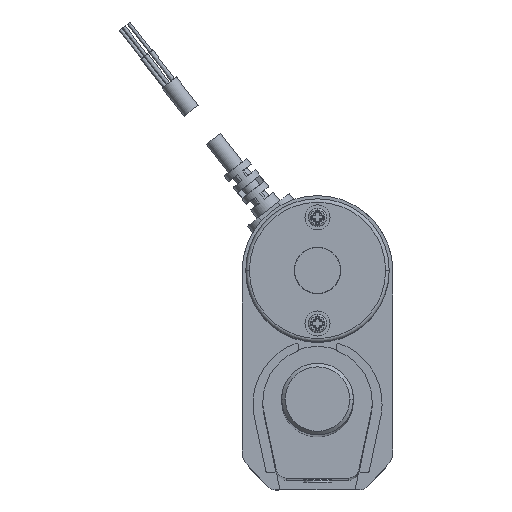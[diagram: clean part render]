
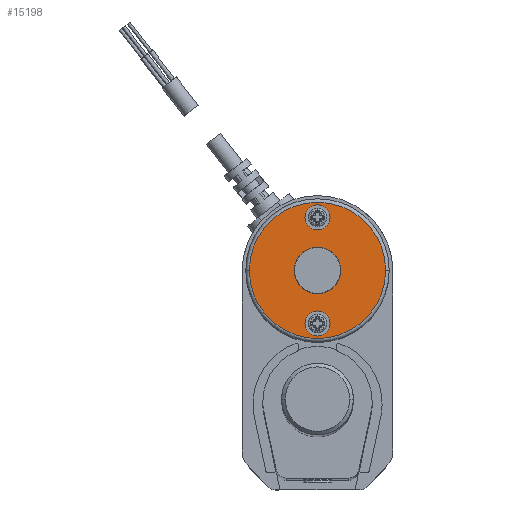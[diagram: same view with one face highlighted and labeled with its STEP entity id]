
A CAD part, top view. The second image highlights one B-rep face of the part: STEP entity #15198.
In plain terms, the highlighted planar face has unit normal (0, 0, 1).
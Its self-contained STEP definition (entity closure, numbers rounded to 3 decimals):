
#93 = ORIENTED_EDGE ( 'NONE', *, *, #8502, .F. ) ;
#414 = DIRECTION ( 'NONE',  ( 0., 0., 1. ) ) ;
#428 = VERTEX_POINT ( 'NONE', #462 ) ;
#462 = CARTESIAN_POINT ( 'NONE',  ( 1.5, 35.954, 132. ) ) ;
#1399 = DIRECTION ( 'NONE',  ( 0., 0., 1. ) ) ;
#1760 = ORIENTED_EDGE ( 'NONE', *, *, #6066, .T. ) ;
#1818 = AXIS2_PLACEMENT_3D ( 'NONE', #9083, #5341, #14029 ) ;
#2201 = AXIS2_PLACEMENT_3D ( 'NONE', #5980, #14680, #4692 ) ;
#2700 = CARTESIAN_POINT ( 'NONE',  ( 0., 6.354, 132. ) ) ;
#2736 = DIRECTION ( 'NONE',  ( -1., 0., 0. ) ) ;
#2790 = CIRCLE ( 'NONE', #5714, 19. ) ;
#3119 = EDGE_CURVE ( 'NONE', #4550, #428, #10006, .T. ) ;
#3423 = CARTESIAN_POINT ( 'NONE',  ( -1.5, 35.954, 132. ) ) ;
#3619 = AXIS2_PLACEMENT_3D ( 'NONE', #12527, #5061, #2736 ) ;
#3744 = DIRECTION ( 'NONE',  ( -1., 0., 0. ) ) ;
#3899 = CARTESIAN_POINT ( 'NONE',  ( 0., 35.954, 132. ) ) ;
#3941 = CARTESIAN_POINT ( 'NONE',  ( -19., 21.154, 132. ) ) ;
#4550 = VERTEX_POINT ( 'NONE', #3423 ) ;
#4660 = ORIENTED_EDGE ( 'NONE', *, *, #7680, .T. ) ;
#4692 = DIRECTION ( 'NONE',  ( -1., 0., 0. ) ) ;
#5040 = VERTEX_POINT ( 'NONE', #5276 ) ;
#5061 = DIRECTION ( 'NONE',  ( 0., 0., 1. ) ) ;
#5127 = DIRECTION ( 'NONE',  ( -1., 0., 0. ) ) ;
#5152 = ORIENTED_EDGE ( 'NONE', *, *, #3119, .F. ) ;
#5276 = CARTESIAN_POINT ( 'NONE',  ( 1.5, 6.354, 132. ) ) ;
#5341 = DIRECTION ( 'NONE',  ( 0., 0., 1. ) ) ;
#5509 = DIRECTION ( 'NONE',  ( 0., 0., 1. ) ) ;
#5714 = AXIS2_PLACEMENT_3D ( 'NONE', #7415, #1399, #3744 ) ;
#5980 = CARTESIAN_POINT ( 'NONE',  ( 0., 21.154, 132. ) ) ;
#6066 = EDGE_CURVE ( 'NONE', #10915, #10189, #2790, .T. ) ;
#6241 = EDGE_CURVE ( 'NONE', #428, #4550, #9563, .T. ) ;
#7415 = CARTESIAN_POINT ( 'NONE',  ( 0., 21.154, 132. ) ) ;
#7554 = FACE_BOUND ( 'NONE', #7755, .T. ) ;
#7680 = EDGE_CURVE ( 'NONE', #10189, #10915, #12606, .T. ) ;
#7698 = CIRCLE ( 'NONE', #12528, 1.5 ) ;
#7755 = EDGE_LOOP ( 'NONE', ( #5152, #15290 ) ) ;
#7813 = CARTESIAN_POINT ( 'NONE',  ( 0., 21.154, 132. ) ) ;
#8393 = VERTEX_POINT ( 'NONE', #11011 ) ;
#8502 = EDGE_CURVE ( 'NONE', #8393, #5040, #7698, .T. ) ;
#8757 = CARTESIAN_POINT ( 'NONE',  ( 19., 21.154, 132. ) ) ;
#8924 = FACE_BOUND ( 'NONE', #9230, .T. ) ;
#9073 = DIRECTION ( 'NONE',  ( -1., 0., 0. ) ) ;
#9083 = CARTESIAN_POINT ( 'NONE',  ( 0., 6.354, 132. ) ) ;
#9230 = EDGE_LOOP ( 'NONE', ( #93, #9597 ) ) ;
#9563 = CIRCLE ( 'NONE', #14142, 1.5 ) ;
#9597 = ORIENTED_EDGE ( 'NONE', *, *, #12384, .F. ) ;
#10006 = CIRCLE ( 'NONE', #3619, 1.5 ) ;
#10189 = VERTEX_POINT ( 'NONE', #3941 ) ;
#10434 = DIRECTION ( 'NONE',  ( -1., 0., 0. ) ) ;
#10915 = VERTEX_POINT ( 'NONE', #8757 ) ;
#11011 = CARTESIAN_POINT ( 'NONE',  ( -1.5, 6.354, 132. ) ) ;
#11418 = EDGE_LOOP ( 'NONE', ( #4660, #1760 ) ) ;
#12384 = EDGE_CURVE ( 'NONE', #5040, #8393, #13444, .T. ) ;
#12527 = CARTESIAN_POINT ( 'NONE',  ( 0., 35.954, 132. ) ) ;
#12528 = AXIS2_PLACEMENT_3D ( 'NONE', #2700, #5509, #10434 ) ;
#12606 = CIRCLE ( 'NONE', #13858, 19. ) ;
#13444 = CIRCLE ( 'NONE', #1818, 1.5 ) ;
#13858 = AXIS2_PLACEMENT_3D ( 'NONE', #7813, #414, #9073 ) ;
#14029 = DIRECTION ( 'NONE',  ( -1., 0., 0. ) ) ;
#14142 = AXIS2_PLACEMENT_3D ( 'NONE', #3899, #15278, #5127 ) ;
#14173 = FACE_OUTER_BOUND ( 'NONE', #11418, .T. ) ;
#14680 = DIRECTION ( 'NONE',  ( 0., 0., 1. ) ) ;
#15198 = ADVANCED_FACE ( 'NONE', ( #7554, #8924, #14173 ), #15919, .T. ) ;
#15278 = DIRECTION ( 'NONE',  ( 0., 0., 1. ) ) ;
#15290 = ORIENTED_EDGE ( 'NONE', *, *, #6241, .F. ) ;
#15919 = PLANE ( 'NONE',  #2201 ) ;
